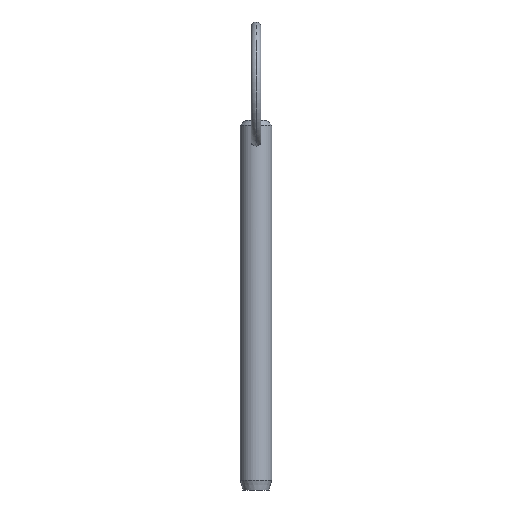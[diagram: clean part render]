
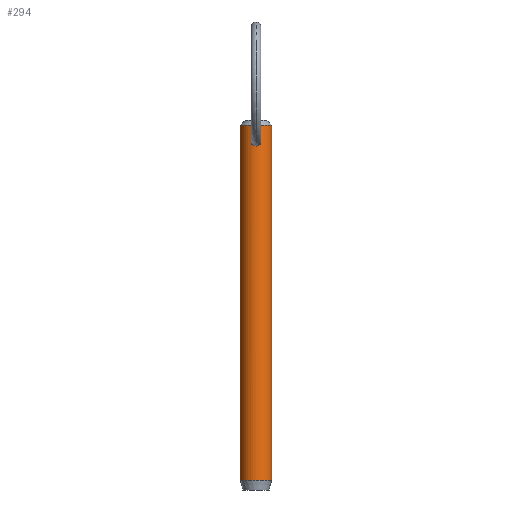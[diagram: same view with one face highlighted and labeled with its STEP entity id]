
A CAD part, front view. The second image highlights one B-rep face of the part: STEP entity #294.
In plain terms, the highlighted cylindrical face has radius 3.175 mm (diameter 6.35 mm), a partial arc.
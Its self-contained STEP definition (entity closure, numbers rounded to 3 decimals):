
#1 = CARTESIAN_POINT ( 'NONE',  ( 0.884, -3.055, 62.957 ) ) ;
#15 = CARTESIAN_POINT ( 'NONE',  ( -0.133, -3.173, 63.474 ) ) ;
#16 = CARTESIAN_POINT ( 'NONE',  ( 0., -3.175, 63.482 ) ) ;
#23 = FACE_BOUND ( 'NONE', #406, .T. ) ;
#29 = VERTEX_POINT ( 'NONE', #448 ) ;
#33 = AXIS2_PLACEMENT_3D ( 'NONE', #353, #167, #465 ) ;
#42 = CARTESIAN_POINT ( 'NONE',  ( 0.134, -3.175, 61.403 ) ) ;
#57 = CARTESIAN_POINT ( 'NONE',  ( -1.004, -3.012, 62.295 ) ) ;
#60 = CARTESIAN_POINT ( 'NONE',  ( -0.508, -3.136, 63.335 ) ) ;
#63 = VERTEX_POINT ( 'NONE', #421 ) ;
#65 = EDGE_CURVE ( 'NONE', #253, #111, #438, .T. ) ;
#74 = CARTESIAN_POINT ( 'NONE',  ( 0.51, -3.136, 63.334 ) ) ;
#76 = CARTESIAN_POINT ( 'NONE',  ( 0.617, -3.116, 63.251 ) ) ;
#95 = CARTESIAN_POINT ( 'NONE',  ( -3.175, 0., 61. ) ) ;
#96 = CARTESIAN_POINT ( 'NONE',  ( -0.991, -3.016, 62.696 ) ) ;
#97 = ORIENTED_EDGE ( 'NONE', *, *, #103, .T. ) ;
#103 = EDGE_CURVE ( 'NONE', #236, #29, #450, .T. ) ;
#105 = AXIS2_PLACEMENT_3D ( 'NONE', #461, #175, #323 ) ;
#111 = VERTEX_POINT ( 'NONE', #235 ) ;
#114 = CARTESIAN_POINT ( 'NONE',  ( 0.628, -3.114, 61.604 ) ) ;
#117 = CARTESIAN_POINT ( 'NONE',  ( 0.888, -3.049, 61.909 ) ) ;
#122 = EDGE_CURVE ( 'NONE', #63, #29, #328, .T. ) ;
#132 = AXIS2_PLACEMENT_3D ( 'NONE', #392, #313, #430 ) ;
#135 = CARTESIAN_POINT ( 'NONE',  ( -0.067, -3.175, 63.482 ) ) ;
#136 = CARTESIAN_POINT ( 'NONE',  ( -0.815, -3.07, 61.795 ) ) ;
#144 = ORIENTED_EDGE ( 'NONE', *, *, #471, .T. ) ;
#154 = CARTESIAN_POINT ( 'NONE',  ( 0., -3.175, 61.403 ) ) ;
#167 = DIRECTION ( 'NONE',  ( 0., 0., -1. ) ) ;
#173 = CARTESIAN_POINT ( 'NONE',  ( -0.134, -3.175, 61.403 ) ) ;
#175 = DIRECTION ( 'NONE',  ( 0., 0., -1. ) ) ;
#176 = CARTESIAN_POINT ( 'NONE',  ( -0.888, -3.049, 61.909 ) ) ;
#192 = CARTESIAN_POINT ( 'NONE',  ( -3.175, 0., 65.58 ) ) ;
#201 = CARTESIAN_POINT ( 'NONE',  ( -3.175, 0., -5.92 ) ) ;
#210 = CARTESIAN_POINT ( 'NONE',  ( -0.328, -3.159, 63.421 ) ) ;
#213 = CARTESIAN_POINT ( 'NONE',  ( -0.516, -3.135, 61.531 ) ) ;
#214 = EDGE_LOOP ( 'NONE', ( #361, #144, #292, #97 ) ) ;
#215 = CARTESIAN_POINT ( 'NONE',  ( -0.983, -3.02, 62.159 ) ) ;
#227 = LINE ( 'NONE', #95, #345 ) ;
#229 = CARTESIAN_POINT ( 'NONE',  ( 0.269, -3.166, 63.45 ) ) ;
#232 = CARTESIAN_POINT ( 'NONE',  ( 0., -3.175, 63.482 ) ) ;
#235 = CARTESIAN_POINT ( 'NONE',  ( 0., -3.175, 61.403 ) ) ;
#236 = VERTEX_POINT ( 'NONE', #201 ) ;
#249 = CARTESIAN_POINT ( 'NONE',  ( -0.615, -3.116, 63.253 ) ) ;
#252 = CARTESIAN_POINT ( 'NONE',  ( -0.629, -3.114, 61.605 ) ) ;
#253 = VERTEX_POINT ( 'NONE', #279 ) ;
#266 = CARTESIAN_POINT ( 'NONE',  ( 0.992, -3.016, 62.694 ) ) ;
#272 = DIRECTION ( 'NONE',  ( 0., 0., -1. ) ) ;
#279 = CARTESIAN_POINT ( 'NONE',  ( 0., -3.175, 63.482 ) ) ;
#283 = EDGE_CURVE ( 'NONE', #111, #253, #365, .T. ) ;
#291 = ORIENTED_EDGE ( 'NONE', *, *, #283, .T. ) ;
#292 = ORIENTED_EDGE ( 'NONE', *, *, #474, .T. ) ;
#293 = VECTOR ( 'NONE', #272, 1000. ) ;
#294 = ADVANCED_FACE ( 'NONE', ( #312, #23 ), #472, .T. ) ;
#298 = CARTESIAN_POINT ( 'NONE',  ( 0.134, -3.175, 63.482 ) ) ;
#312 = FACE_OUTER_BOUND ( 'NONE', #214, .T. ) ;
#313 = DIRECTION ( 'NONE',  ( 0., 0., 1. ) ) ;
#316 = ORIENTED_EDGE ( 'NONE', *, *, #65, .T. ) ;
#318 = DIRECTION ( 'NONE',  ( 0., 0., -1. ) ) ;
#319 = CARTESIAN_POINT ( 'NONE',  ( -0.269, -3.166, 61.429 ) ) ;
#323 = DIRECTION ( 'NONE',  ( -1., 0., 0. ) ) ;
#328 = LINE ( 'NONE', #464, #293 ) ;
#334 = CARTESIAN_POINT ( 'NONE',  ( 0.815, -3.07, 61.795 ) ) ;
#336 = CARTESIAN_POINT ( 'NONE',  ( 1.004, -3.012, 62.293 ) ) ;
#345 = VECTOR ( 'NONE', #318, 1000. ) ;
#353 = CARTESIAN_POINT ( 'NONE',  ( 0., 0., 65.58 ) ) ;
#357 = CARTESIAN_POINT ( 'NONE',  ( -0.882, -3.055, 62.96 ) ) ;
#361 = ORIENTED_EDGE ( 'NONE', *, *, #122, .F. ) ;
#365 = B_SPLINE_CURVE_WITH_KNOTS ( 'NONE', 3,
 ( #401, #173, #319, #213, #252, #136, #176, #215, #57, #96, #357, #249, #60, #210, #466, #15, #135, #16 ),
 .UNSPECIFIED., .F., .F.,
 ( 4, 2, 2, 2, 2, 2, 2, 2, 4 ),
 ( 0.006, 0.006, 0.007, 0.007, 0.008, 0.008, 0.009, 0.009, 0.009 ),
 .UNSPECIFIED. ) ;
#373 = CARTESIAN_POINT ( 'NONE',  ( 0.982, -3.02, 62.158 ) ) ;
#376 = CARTESIAN_POINT ( 'NONE',  ( 0.515, -3.135, 61.53 ) ) ;
#392 = CARTESIAN_POINT ( 'NONE',  ( 0., 0., -5.92 ) ) ;
#401 = CARTESIAN_POINT ( 'NONE',  ( 0., -3.175, 61.403 ) ) ;
#406 = EDGE_LOOP ( 'NONE', ( #316, #291 ) ) ;
#421 = CARTESIAN_POINT ( 'NONE',  ( 3.175, 0., 65.58 ) ) ;
#430 = DIRECTION ( 'NONE',  ( -1., 0., 0. ) ) ;
#438 = B_SPLINE_CURVE_WITH_KNOTS ( 'NONE', 3,
 ( #232, #298, #229, #74, #76, #1, #266, #336, #373, #117, #334, #114, #376, #451, #42, #154 ),
 .UNSPECIFIED., .F., .F.,
 ( 4, 2, 2, 2, 2, 2, 2, 4 ),
 ( 0.003, 0.003, 0.004, 0.004, 0.005, 0.005, 0.006, 0.006 ),
 .UNSPECIFIED. ) ;
#442 = VERTEX_POINT ( 'NONE', #192 ) ;
#448 = CARTESIAN_POINT ( 'NONE',  ( 3.175, 0., -5.92 ) ) ;
#450 = CIRCLE ( 'NONE', #132, 3.175 ) ;
#451 = CARTESIAN_POINT ( 'NONE',  ( 0.268, -3.166, 61.429 ) ) ;
#461 = CARTESIAN_POINT ( 'NONE',  ( 0., 0., 61. ) ) ;
#464 = CARTESIAN_POINT ( 'NONE',  ( 3.175, 0., 61. ) ) ;
#465 = DIRECTION ( 'NONE',  ( 1., 0., 0. ) ) ;
#466 = CARTESIAN_POINT ( 'NONE',  ( -0.264, -3.165, 63.444 ) ) ;
#470 = CIRCLE ( 'NONE', #33, 3.175 ) ;
#471 = EDGE_CURVE ( 'NONE', #63, #442, #470, .T. ) ;
#472 = CYLINDRICAL_SURFACE ( 'NONE', #105, 3.175 ) ;
#474 = EDGE_CURVE ( 'NONE', #442, #236, #227, .T. ) ;
